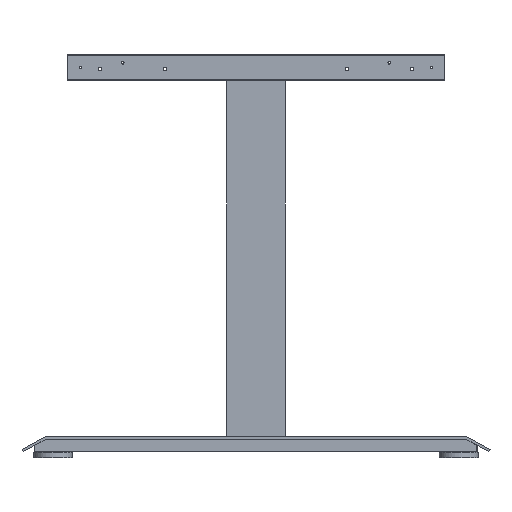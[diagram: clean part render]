
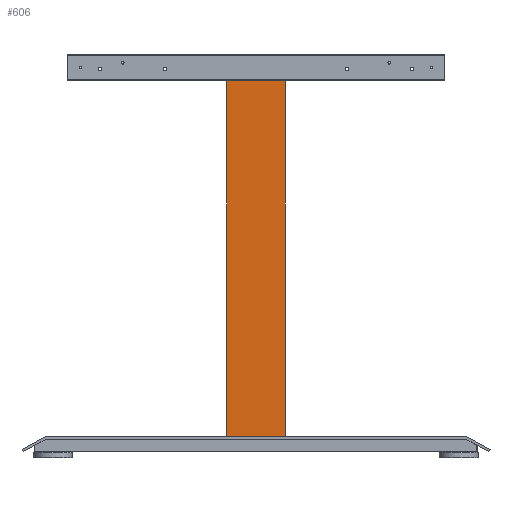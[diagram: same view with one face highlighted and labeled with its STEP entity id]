
A CAD part, left-side view. The second image highlights one B-rep face of the part: STEP entity #606.
In plain terms, the highlighted planar face has unit normal (-1, 0, 0).
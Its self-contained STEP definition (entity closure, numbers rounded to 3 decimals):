
#606 = ADVANCED_FACE( '', ( #1373 ), #1374, .F. );
#1373 = FACE_OUTER_BOUND( '', #2111, .T. );
#1374 = PLANE( '', #2112 );
#2111 = EDGE_LOOP( '', ( #3444, #3445, #3446, #3447 ) );
#2112 = AXIS2_PLACEMENT_3D( '', #3448, #3449, #3450 );
#3444 = ORIENTED_EDGE( '', *, *, #3762, .T. );
#3445 = ORIENTED_EDGE( '', *, *, #3699, .F. );
#3446 = ORIENTED_EDGE( '', *, *, #3948, .F. );
#3447 = ORIENTED_EDGE( '', *, *, #3817, .T. );
#3448 = CARTESIAN_POINT( '', ( -45., 45., 550.5 ) );
#3449 = DIRECTION( '', ( 1., 0., 0. ) );
#3450 = DIRECTION( '', ( 0., 0., -1. ) );
#3699 = EDGE_CURVE( '', #4350, #4348, #4352, .T. );
#3762 = EDGE_CURVE( '', #4456, #4348, #4458, .T. );
#3817 = EDGE_CURVE( '', #4548, #4456, #4549, .T. );
#3948 = EDGE_CURVE( '', #4548, #4350, #4749, .T. );
#4348 = VERTEX_POINT( '', #5247 );
#4350 = VERTEX_POINT( '', #5250 );
#4352 = LINE( '', #5253, #5254 );
#4456 = VERTEX_POINT( '', #5371 );
#4458 = LINE( '', #5374, #5375 );
#4548 = VERTEX_POINT( '', #5484 );
#4549 = LINE( '', #5485, #5486 );
#4749 = LINE( '', #5743, #5744 );
#5247 = CARTESIAN_POINT( '', ( -45., -45., 0. ) );
#5250 = CARTESIAN_POINT( '', ( -45., -45., 550.5 ) );
#5253 = CARTESIAN_POINT( '', ( -45., -45., 550.5 ) );
#5254 = VECTOR( '', #6119, 1000. );
#5371 = CARTESIAN_POINT( '', ( -45., 45., 0. ) );
#5374 = CARTESIAN_POINT( '', ( -45., 45., 0. ) );
#5375 = VECTOR( '', #6239, 1000. );
#5484 = CARTESIAN_POINT( '', ( -45., 45., 550.5 ) );
#5485 = CARTESIAN_POINT( '', ( -45., 45., 550.5 ) );
#5486 = VECTOR( '', #6319, 1000. );
#5743 = CARTESIAN_POINT( '', ( -45., 45., 550.5 ) );
#5744 = VECTOR( '', #6485, 1000. );
#6119 = DIRECTION( '', ( 0., 0., -1. ) );
#6239 = DIRECTION( '', ( 0., -1., 0. ) );
#6319 = DIRECTION( '', ( 0., 0., -1. ) );
#6485 = DIRECTION( '', ( 0., -1., 0. ) );
